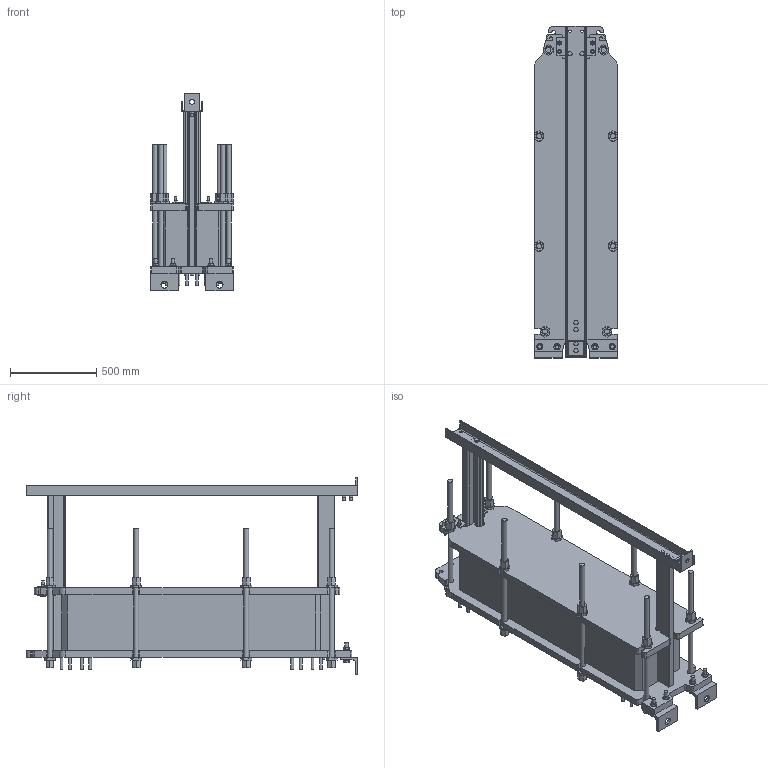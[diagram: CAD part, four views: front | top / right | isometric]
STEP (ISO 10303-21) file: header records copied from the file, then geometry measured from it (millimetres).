
FILE_DESCRIPTION((''),'2;1');
FILE_NAME('c:\temp\TL10_FG_LC900_AL_01_REV0.stp','2009-06-24T11:51:21',('CNSHFLU'),(''),'Autodesk Inventor 2008','Autodesk Inventor 2008','');
FILE_SCHEMA(('AUTOMOTIVE_DESIGN { 1 0 10303 214 1 1 1 1 }'));
Length unit declared in the file: millimetre
Products named in the file (1): TL10
Bounding box: 483 x 1923 x 1145 mm (x, y, z)
Volume: 250113151.6 mm3; surface area: 7184665.2 mm2
Topology: 1 solids, 5 shells, 1389 faces, 3632 edges, 2404 vertices
Faces by surface type: plane 750, cylinder 350, bspline 287, cone 2
Full cylindrical faces by diameter (mm): 3.75 x4, 13 x8, 14 x6, 14.2 x2, 16 x34, 22 x9, 24 x10, 28 x1, 30 x8, 37 x4, 40 x2, 60 x1, 100 x4, 110 x4
Entity records: 42421 total; most frequent: CARTESIAN_POINT 8556, ORIENTED_EDGE 6970, DIRECTION 6489, EDGE_CURVE 3485, VECTOR 2687, LINE 2687, VERTEX_POINT 2386, AXIS2_PLACEMENT_3D 1901
